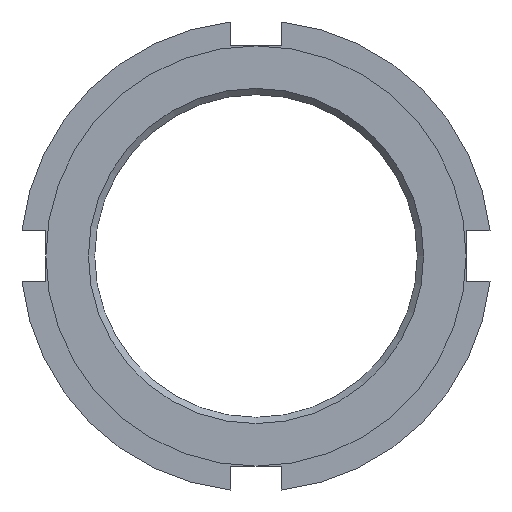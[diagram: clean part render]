
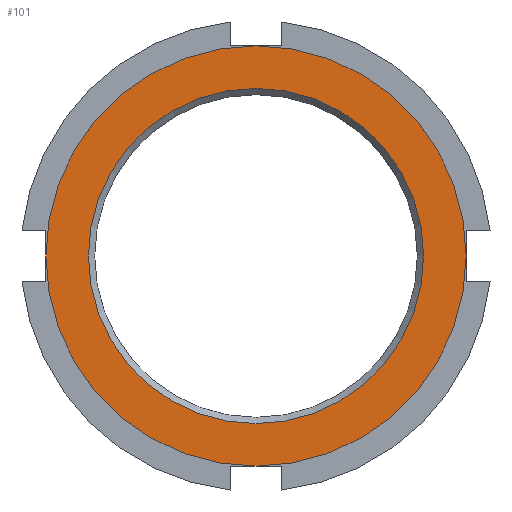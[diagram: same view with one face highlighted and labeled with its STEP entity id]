
A CAD part, left-side view. The second image highlights one B-rep face of the part: STEP entity #101.
In plain terms, the highlighted planar face has unit normal (-1, 0, 0).
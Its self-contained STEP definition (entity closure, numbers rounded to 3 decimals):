
#101 = ADVANCED_FACE( '', ( #169, #170 ), #171, .F. );
#169 = FACE_OUTER_BOUND( '', #247, .T. );
#170 = FACE_BOUND( '', #248, .T. );
#171 = PLANE( '', #249 );
#247 = EDGE_LOOP( '', ( #462 ) );
#248 = EDGE_LOOP( '', ( #463 ) );
#249 = AXIS2_PLACEMENT_3D( '', #464, #465, #466 );
#462 = ORIENTED_EDGE( '', *, *, #571, .F. );
#463 = ORIENTED_EDGE( '', *, *, #550, .T. );
#464 = CARTESIAN_POINT( '', ( 0., 0., 0. ) );
#465 = DIRECTION( '', ( 1., 0., 0. ) );
#466 = DIRECTION( '', ( 0., 0., -1. ) );
#550 = EDGE_CURVE( '', #656, #656, #657, .T. );
#571 = EDGE_CURVE( '', #685, #685, #686, .T. );
#656 = VERTEX_POINT( '', #841 );
#657 = CIRCLE( '', #842, 19.938 );
#685 = VERTEX_POINT( '', #884 );
#686 = CIRCLE( '', #885, 25. );
#841 = CARTESIAN_POINT( '', ( 0., 0., -19.938 ) );
#842 = AXIS2_PLACEMENT_3D( '', #971, #972, #973 );
#884 = CARTESIAN_POINT( '', ( 0., 0., -25. ) );
#885 = AXIS2_PLACEMENT_3D( '', #1018, #1019, #1020 );
#971 = CARTESIAN_POINT( '', ( 0., 0., 0. ) );
#972 = DIRECTION( '', ( 1., 0., 0. ) );
#973 = DIRECTION( '', ( 0., 0., -1. ) );
#1018 = CARTESIAN_POINT( '', ( 0., 0., 0. ) );
#1019 = DIRECTION( '', ( 1., 0., 0. ) );
#1020 = DIRECTION( '', ( 0., 0., -1. ) );
